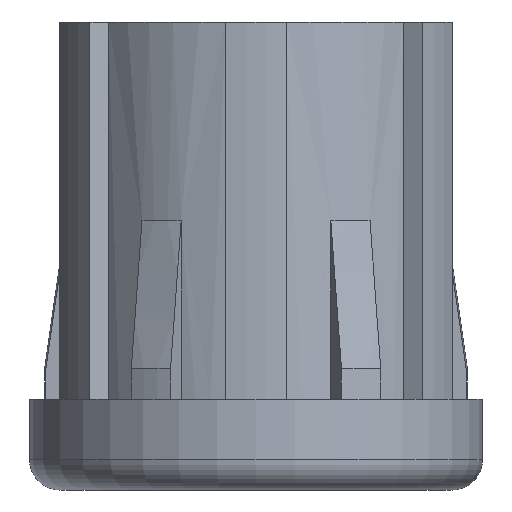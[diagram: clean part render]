
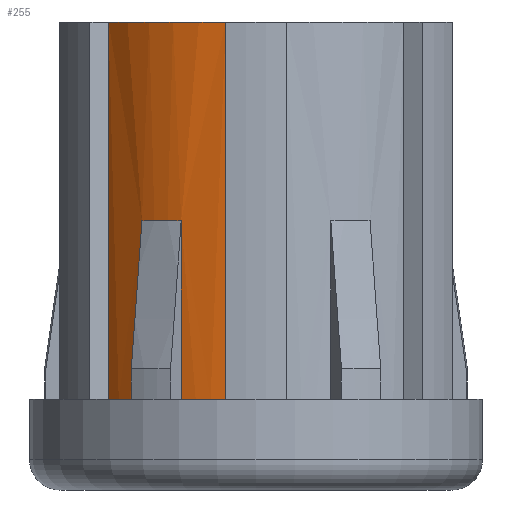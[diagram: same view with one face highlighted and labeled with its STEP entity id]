
A CAD part, front view. The second image highlights one B-rep face of the part: STEP entity #255.
In plain terms, the highlighted cylindrical face has radius 12.6 mm (diameter 25.2 mm), a partial arc.
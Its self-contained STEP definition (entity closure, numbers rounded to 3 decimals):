
#255=ADVANCED_FACE('0:118',(#533),#534,.T.);
#533=FACE_OUTER_BOUND('',#848,.T.);
#534=CYLINDRICAL_SURFACE('',#849,12.6);
#848=EDGE_LOOP('',(#1299,#1300,#1301,#1302,#1303,#1304,#1305,#1306));
#849=AXIS2_PLACEMENT_3D('',#1307,#1308,#1309);
#1299=ORIENTED_EDGE('',*,*,#2027,.F.);
#1300=ORIENTED_EDGE('',*,*,#2028,.T.);
#1301=ORIENTED_EDGE('',*,*,#2029,.T.);
#1302=ORIENTED_EDGE('',*,*,#1941,.F.);
#1303=ORIENTED_EDGE('',*,*,#2030,.F.);
#1304=ORIENTED_EDGE('',*,*,#2031,.T.);
#1305=ORIENTED_EDGE('',*,*,#2032,.T.);
#1306=ORIENTED_EDGE('',*,*,#2033,.F.);
#1307=CARTESIAN_POINT('',(0.0,0.,97.05));
#1308=DIRECTION('',(-0.0,0.0,-1.0));
#1309=DIRECTION('',(-1.0,0.0,0.0));
#1941=EDGE_CURVE('',#2314,#2310,#2316,.T.);
#2027=EDGE_CURVE('',#2447,#2448,#2449,.F.);
#2028=EDGE_CURVE('',#2447,#2450,#2451,.T.);
#2029=EDGE_CURVE('',#2450,#2310,#2452,.T.);
#2030=EDGE_CURVE('',#2453,#2314,#2454,.T.);
#2031=EDGE_CURVE('',#2453,#2455,#2456,.T.);
#2032=EDGE_CURVE('',#2455,#2457,#2458,.T.);
#2033=EDGE_CURVE('',#2448,#2457,#2459,.T.);
#2310=VERTEX_POINT('',#2810);
#2314=VERTEX_POINT('',#2816);
#2316=LINE('',#2819,#2820);
#2447=VERTEX_POINT('',#2975);
#2448=VERTEX_POINT('',#2976);
#2449=CIRCLE('',#2977,12.6);
#2450=VERTEX_POINT('',#2978);
#2451=LINE('',#2979,#2980);
#2452=CIRCLE('',#2981,12.6);
#2453=VERTEX_POINT('',#2982);
#2454=CIRCLE('',#2983,12.6);
#2455=VERTEX_POINT('',#2984);
#2456=LINE('',#2985,#2986);
#2457=VERTEX_POINT('',#2987);
#2458=CIRCLE('',#2988,12.6);
#2459=LINE('',#2989,#2990);
#2810=CARTESIAN_POINT('',(-2.,-12.44,72.05));
#2816=CARTESIAN_POINT('',(-2.,-12.44,97.05));
#2819=CARTESIAN_POINT('',(-2.,-12.44,97.05));
#2820=VECTOR('',#3368,0.);
#2975=CARTESIAN_POINT('',(-4.956,-11.584,83.886));
#2976=CARTESIAN_POINT('',(-7.554,-10.084,83.886));
#2977=AXIS2_PLACEMENT_3D('',#3513,#3514,#3515);
#2978=CARTESIAN_POINT('',(-4.956,-11.584,72.05));
#2979=CARTESIAN_POINT('',(-4.956,-11.584,97.05));
#2980=VECTOR('',#3516,0.);
#2981=AXIS2_PLACEMENT_3D('',#3517,#3518,#3519);
#2982=CARTESIAN_POINT('',(-9.774,-7.952,97.05));
#2983=AXIS2_PLACEMENT_3D('',#3520,#3521,#3522);
#2984=CARTESIAN_POINT('',(-9.774,-7.952,72.05));
#2985=CARTESIAN_POINT('',(-9.774,-7.952,97.05));
#2986=VECTOR('',#3523,0.);
#2987=CARTESIAN_POINT('',(-7.554,-10.084,72.05));
#2988=AXIS2_PLACEMENT_3D('',#3524,#3525,#3526);
#2989=CARTESIAN_POINT('',(-7.554,-10.084,97.05));
#2990=VECTOR('',#3527,0.);
#3368=DIRECTION('',(0.0,0.0,-1.0));
#3513=CARTESIAN_POINT('',(0.0,0.,83.886));
#3514=DIRECTION('',(0.0,0.0,1.0));
#3515=DIRECTION('',(-1.0,0.0,0.0));
#3516=DIRECTION('',(0.0,0.0,-1.0));
#3517=CARTESIAN_POINT('',(0.0,0.,72.05));
#3518=DIRECTION('',(0.0,0.0,1.0));
#3519=DIRECTION('',(1.0,0.0,0.0));
#3520=CARTESIAN_POINT('',(0.0,0.,97.05));
#3521=DIRECTION('',(0.0,0.0,1.0));
#3522=DIRECTION('',(1.0,0.0,0.0));
#3523=DIRECTION('',(0.0,0.0,-1.0));
#3524=CARTESIAN_POINT('',(0.0,0.,72.05));
#3525=DIRECTION('',(0.0,0.0,1.0));
#3526=DIRECTION('',(1.0,0.0,0.0));
#3527=DIRECTION('',(0.0,0.0,-1.0));
